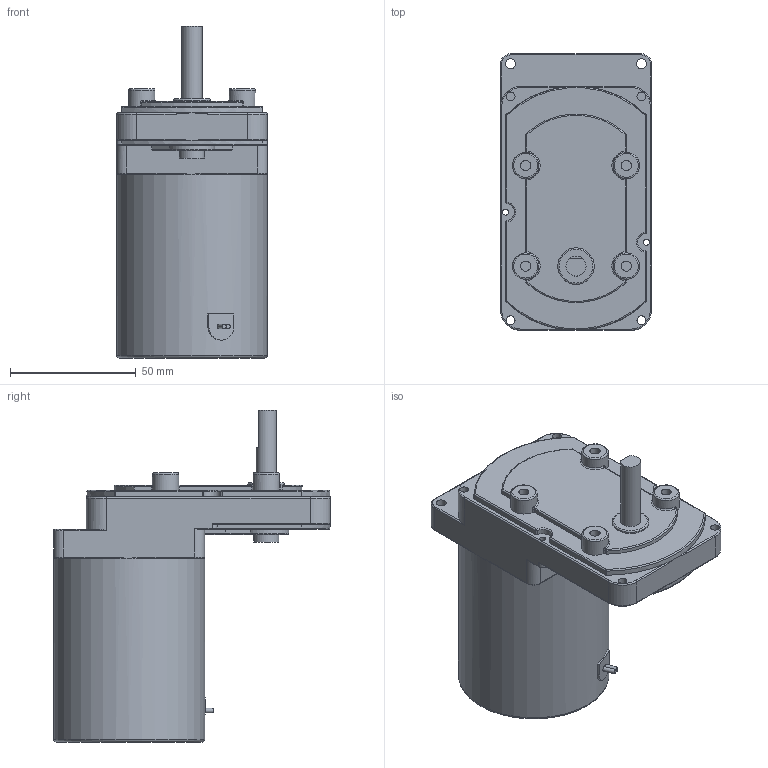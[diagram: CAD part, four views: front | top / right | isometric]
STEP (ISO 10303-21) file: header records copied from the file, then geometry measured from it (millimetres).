
FILE_DESCRIPTION((''),'2;1');
FILE_NAME('E:\2공장-도면\3D\표준형 3D(민규)\1공장 step\KGY (DC) F TYPE.stp','2015-02-26T17:22:46',('AHN'),(''),'Autodesk Inventor 2012','Autodesk Inventor 2012','');
FILE_SCHEMA(('CONFIG_CONTROL_DESIGN'));
Length unit declared in the file: millimetre
Products named in the file (1): KGY (DC) F타입
Bounding box: 60 x 110 x 132 mm (x, y, z)
Volume: 343303.3 mm3; surface area: 37874.8 mm2
Topology: 1 solids, 1 shells, 224 faces, 533 edges, 308 vertices
Faces by surface type: cylinder 99, plane 61, torus 32, bspline 24, sphere 8
Full cylindrical faces by diameter (mm): 1.78 x2, 2.4 x2, 3.5 x4, 4 x8, 8 x1, 10 x1, 10.5 x4, 14.5 x1, 60 x1
Entity records: 6885 total; most frequent: CARTESIAN_POINT 1928, DIRECTION 1079, ORIENTED_EDGE 958, EDGE_CURVE 479, AXIS2_PLACEMENT_3D 449, VERTEX_POINT 298, EDGE_LOOP 278, CIRCLE 246
